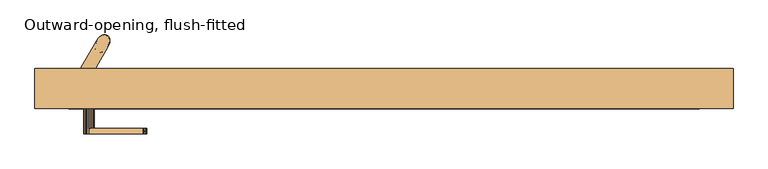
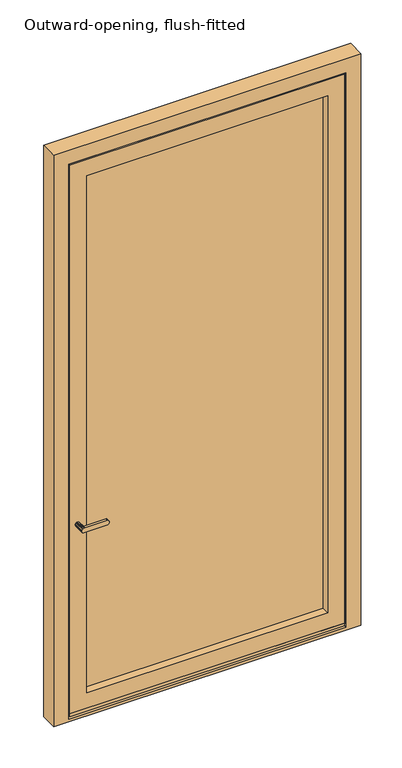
"""IFC4 building model written with IfcOpenShell, lengths in millimetres: door geometry, Outward-opening, flush-fitted."""

import ifcopenshell
import ifcopenshell.guid

model = None  # the IFC model being written
_history = None  # IfcOwnerHistory: only IFC2X3 demands one
_inside = {}  # id of a spatial element -> (the spatial element, [elements in it])
_under = {}  # id of a project, library or spatial element -> (it, [spatial elements below it])
_declared = {}  # id of a project -> (the project, [libraries it declares])
_typed = {}  # id of a type object -> (the type object, [elements of that type])
_made_of = {}  # id of a material, layer set ... -> (it, [elements and type objects made of it])


def new_model(schema):
    """Start an empty IFC model of exactly this schema.

    Asked for "IFC4X3", IfcOpenShell would pick the latest addendum, in which some entities
    have other attributes; the version numbers below select the first issue.
    IFC2X3 requires an IfcOwnerHistory on every rooted entity: one is made here for all.
    """
    global model, _history
    if schema == "IFC4X3":
        model = ifcopenshell.file(schema_version=(4, 3, 0, 0))
    else:
        model = ifcopenshell.file(schema=schema)
    _inside.clear()
    _under.clear()
    _declared.clear()
    _typed.clear()
    _made_of.clear()
    _history = None
    if model.schema == "IFC2X3":
        org = make("IfcOrganization", Name="unknown")
        user = make(
            "IfcPersonAndOrganization",
            ThePerson=make("IfcPerson", FamilyName="unknown"),
            TheOrganization=org,
        )
        app = make(
            "IfcApplication",
            ApplicationDeveloper=org,
            Version="unknown",
            ApplicationFullName="unknown",
            ApplicationIdentifier="unknown",
        )
        _history = make(
            "IfcOwnerHistory",
            OwningUser=user,
            OwningApplication=app,
            ChangeAction="ADDED",
            CreationDate=0,
        )
    return model


def make(cls, **values):
    """One entity of the class cls with the attributes given. An attribute that is None is left unset."""
    return model.create_entity(
        cls, **{name: value for name, value in values.items() if value is not None}
    )


def rooted(cls, **values):
    """An entity with a GlobalId (a new one), such as an element, a storey or a relation."""
    return make(cls, GlobalId=ifcopenshell.guid.new(), OwnerHistory=_history, **values)


def si_unit(unit_type, name, prefix=None):
    """IfcSIUnit, for example si_unit("LENGTHUNIT", "METRE", prefix="MILLI")."""
    return make("IfcSIUnit", UnitType=unit_type, Prefix=prefix, Name=name)


def assignment(units):
    """IfcUnitAssignment: the units of a project."""
    return None if units is None else make("IfcUnitAssignment", Units=units)


def point(xyz):
    """IfcCartesianPoint."""
    return None if xyz is None else make("IfcCartesianPoint", Coordinates=xyz)


def direction(xyz):
    """IfcDirection."""
    return None if xyz is None else make("IfcDirection", DirectionRatios=xyz)


def frame(location, z_axis=None, x_axis=None):
    """IfcAxis2Placement3D, a coordinate frame: its origin and axes. An axis left out is left unset."""
    return make(
        "IfcAxis2Placement3D",
        Location=point(location),
        Axis=direction(z_axis),
        RefDirection=direction(x_axis),
    )


def origin():
    """The frame at (0, 0, 0) with its axes left unset."""
    return frame((0.0, 0.0, 0.0))


def place(relative_to, where):
    """IfcLocalPlacement: puts the frame where relative to a parent placement (None: the world)."""
    return make(
        "IfcLocalPlacement", PlacementRelTo=relative_to, RelativePlacement=where
    )


def context(
    kind, dimensions, precision=None, world=None, true_north=None, identifier=None
):
    """IfcGeometricRepresentationContext, for example the 3D "Model" context."""
    return make(
        "IfcGeometricRepresentationContext",
        ContextIdentifier=identifier,
        ContextType=kind,
        CoordinateSpaceDimension=dimensions,
        Precision=precision,
        WorldCoordinateSystem=world,
        TrueNorth=true_north,
    )


def project(units=None, contexts=None):
    """IfcProject with its units and contexts."""
    return rooted(
        "IfcProject",
        Name="project",
        RepresentationContexts=contexts,
        UnitsInContext=assignment(units),
    )


def spatial(cls, under=None, at=None, **own):
    """A site, building, storey or space (cls), placed at a placement, below another one or the project."""
    s = rooted(cls, ObjectPlacement=at, **own)
    if under is not None:
        _under.setdefault(under.id(), (under, []))[1].append(s)
    return s


def polyline(points):
    """IfcPolyline through the points."""
    return make("IfcPolyline", Points=[point(p) for p in points])


def outline(outer, holes=None, kind="AREA"):
    """IfcArbitraryClosedProfileDef: a profile drawn as a closed curve; with holes, ...WithVoids."""
    if holes is None:
        return make("IfcArbitraryClosedProfileDef", ProfileType=kind, OuterCurve=outer)
    return make(
        "IfcArbitraryProfileDefWithVoids",
        ProfileType=kind,
        OuterCurve=outer,
        InnerCurves=holes,
    )


def extrude(swept, where, along, depth):
    """IfcExtrudedAreaSolid: the profile swept, set in the frame where, extruded along a direction by depth."""
    return make(
        "IfcExtrudedAreaSolid",
        SweptArea=swept,
        Position=where,
        ExtrudedDirection=direction(along),
        Depth=depth,
    )


def faces_of(points, faces, orient=None, outer=None):
    """IfcFace entities. A face is a list of loops; a loop is a list of indices into points, from 0.

    orient and outer hold one flag for each loop. By default every Orientation is true, the
    first loop of a face is its IfcFaceOuterBound and the others are IfcFaceBound.
    """
    made = []
    for i, loops in enumerate(faces):
        bounds = []
        for j, loop in enumerate(loops):
            is_outer = j == 0 if outer is None else outer[i][j]
            bounds.append(
                make(
                    "IfcFaceOuterBound" if is_outer else "IfcFaceBound",
                    Bound=make("IfcPolyLoop", Polygon=[points[k] for k in loop]),
                    Orientation=True if orient is None else orient[i][j],
                )
            )
        made.append(make("IfcFace", Bounds=bounds))
    return made


def faceted_brep(points, faces, orient=None, outer=None, voids=None):
    """IfcFacetedBrep: a solid bounded by flat faces; with voids (closed shells), ...WithVoids."""
    shared = [point(p) for p in points]
    hull = make("IfcClosedShell", CfsFaces=faces_of(shared, faces, orient, outer))
    if voids is None:
        return make("IfcFacetedBrep", Outer=hull)
    return make(
        "IfcFacetedBrepWithVoids",
        Outer=hull,
        Voids=[
            make(cls, CfsFaces=faces_of(shared, fs, o, b)) for cls, fs, o, b in voids
        ],
    )


def shape(context_of_items, identifier, shape_type, items):
    """IfcShapeRepresentation: the items that make up one representation, for example the "Body"."""
    return make(
        "IfcShapeRepresentation",
        ContextOfItems=context_of_items,
        RepresentationIdentifier=identifier,
        RepresentationType=shape_type,
        Items=items,
    )


def source(mapping_origin, context_of_items, identifier, shape_type, items):
    """IfcRepresentationMap: a shape defined once, which mapped items show again and again."""
    return make(
        "IfcRepresentationMap",
        MappingOrigin=mapping_origin,
        MappedRepresentation=shape(context_of_items, identifier, shape_type, items),
    )


def transform(
    local_origin,
    x_axis=None,
    y_axis=None,
    z_axis=None,
    scale=None,
    scale2=None,
    scale3=None,
    uniform=True,
):
    """IfcCartesianTransformationOperator3D, or its non-uniform kind. x_axis, y_axis, z_axis: its Axis1, 2, 3."""
    if uniform:
        return make(
            "IfcCartesianTransformationOperator3D",
            Axis1=direction(x_axis),
            Axis2=direction(y_axis),
            LocalOrigin=point(local_origin),
            Scale=scale,
            Axis3=direction(z_axis),
        )
    return make(
        "IfcCartesianTransformationOperator3DnonUniform",
        Axis1=direction(x_axis),
        Axis2=direction(y_axis),
        LocalOrigin=point(local_origin),
        Scale=scale,
        Axis3=direction(z_axis),
        Scale2=scale2,
        Scale3=scale3,
    )


def mapped(mapping_source, mapping_target):
    """IfcMappedItem: shows the shape of a source again, moved by a transform."""
    return make(
        "IfcMappedItem", MappingSource=mapping_source, MappingTarget=mapping_target
    )


def made_of(thing, what):
    """Note that an element or type object is made of a material, layer set ...; save() writes the relation."""
    if what is not None:
        _made_of.setdefault(what.id(), (what, []))[1].append(thing)
    return thing


def element(
    cls,
    number,
    at=None,
    inside=None,
    cuts=None,
    type_object=None,
    material=None,
    context=None,
    identifier="Body",
    shape_type=None,
    held_by="IfcProductDefinitionShape",
    body=None,
    shapes=None,
    **own,
):
    """One element of the class cls, such as IfcWall. Its Tag is "e" and its number.

    at: its placement. inside: the storey or other place that contains it. cuts: it is an
    opening in that element (IfcRelVoidsElement). A single representation is given by context,
    identifier, shape_type and body (its items); several are given by shapes. held_by: the class
    of the entity that holds the representations. save() writes the other relations.
    """
    e = rooted(cls, Tag="e%d" % number, ObjectPlacement=at, **own)
    if body is not None:
        shapes = [shape(context, identifier, shape_type, body)]
    if shapes is not None:
        e.Representation = make(held_by, Representations=shapes)
    if inside is not None:
        _inside.setdefault(inside.id(), (inside, []))[1].append(e)
    if cuts is not None:
        rooted(
            "IfcRelVoidsElement", RelatingBuildingElement=cuts, RelatedOpeningElement=e
        )
    if type_object is not None:
        _typed.setdefault(type_object.id(), (type_object, []))[1].append(e)
    return made_of(e, material)


def aggregate(whole, parts):
    """IfcRelAggregates: a whole, such as a stair, and the parts it consists of."""
    return rooted("IfcRelAggregates", RelatingObject=whole, RelatedObjects=parts)


def save(model, path):
    """Write the relations noted so far, then the file.

    IfcRelAggregates (storeys below a building ...), IfcRelContainedInSpatialStructure (elements
    in a storey), IfcRelDefinesByType, IfcRelAssociatesMaterial and IfcRelDeclares: one each for
    every whole, place, type object, material and project.
    """
    for whole, parts in _under.values():
        aggregate(whole, parts)
    for where, things in _inside.values():
        rooted(
            "IfcRelContainedInSpatialStructure",
            RelatedElements=things,
            RelatingStructure=where,
        )
    for kind, things in _typed.values():
        rooted("IfcRelDefinesByType", RelatedObjects=things, RelatingType=kind)
    for what, things in _made_of.values():
        rooted("IfcRelAssociatesMaterial", RelatedObjects=things, RelatingMaterial=what)
    for by, libraries in _declared.values():
        rooted("IfcRelDeclares", RelatingContext=by, RelatedDefinitions=libraries)
    model.write(path)


def outward_opening_flush_fitted_6024bf3f(model_context):
    return source(origin(), model_context, "Body", "SolidModel", [
        faceted_brep([(1489.5088425, -103.0, 3005.2684031), (1489.5088425, -94.7, 3005.2684031), (1489.5088425, -94.7, 17.8651688), (1489.5088425, -103.0, 15.0072496), (76.0, -94.7, 3005.2684031), (76.0, -94.7, 17.8651688), (55.5, -94.7, 17.8651688), (55.5, -94.7, 3025.7684031), (1510.0088425, -94.7, 3025.7684031), (1510.0088425, -94.7, 17.8651688), (1510.0088425, -21.3, 3025.7684031), (1510.0088425, -21.3, 14.3), (1510.0088425, -81.0, 14.3), (1510.0088425, -81.0, 20.0), (1510.0088425, -88.5, 20.0), (1521.5088425, -13.0006635, 0.0), (1521.5088425, -21.3, 0.0), (1521.5088425, -21.3, 3037.2684031), (1521.5088425, -13.0006635, 3037.2684031), (1565.5088425, -13.0006635, 0.0), (44.0, -13.0006635, 3037.2684031), (44.0, -13.0006635, 0.0), (0.0, -13.0006635, 0.0), (0.0, -13.0006635, 3081.2684031), (1565.5088425, -13.0006635, 3081.2684031), (76.0, -103.0, 3005.2684031), (76.0, -103.0, 15.0072496), (44.0, -21.3, 3037.2684031), (44.0, -21.3, 0.0), (55.5, -21.3, 3025.7684031), (55.5, -88.5, 20.0), (55.5, -81.0, 20.0), (55.5, -81.0, 14.3), (55.5, -21.3, 14.3), (0.0, -103.0, 3081.2684031), (1565.5088425, -103.0, 3081.2684031), (1565.5088425, -103.0, 0.0), (0.0, -103.0, 0.0)], [[[0, 1, 2, 3]], [[1, 4, 5, 6, 7, 8, 9, 2]], [[8, 10, 11, 12, 13, 14, 9]], [[15, 16, 17, 18]], [[19, 15, 18, 20, 21, 22, 23, 24]], [[4, 25, 26, 5]], [[20, 27, 28, 21]], [[29, 7, 6, 30, 31, 32, 33]], [[25, 4, 1, 0]], [[27, 20, 18, 17]], [[23, 34, 35, 24]], [[29, 10, 8, 7]], [[19, 24, 35, 36]], [[34, 23, 22, 37]], [[37, 36, 35, 34], [3, 26, 25, 0]], [[19, 36, 37, 22, 21, 28, 16, 15]], [[14, 30, 6, 5, 26, 3, 2, 9]], [[16, 28, 27, 17], [33, 11, 10, 29]], [[11, 33, 32, 12]], [[12, 32, 31, 13]], [[13, 31, 30, 14]]]),
        faceted_brep([(112.5227579, -103.0, 1058.4772421), (115.0056846, -103.0, 1060.3824588), (117.897114, -103.0, 1061.5801281), (121.0, -103.0, 1061.9886308), (124.102886, -103.0, 1061.5801281), (126.9943154, -103.0, 1060.3824588), (129.4772421, -103.0, 1058.4772421), (131.3824588, -103.0, 1055.9943154), (132.5801281, -103.0, 1053.102886), (132.9886308, -103.0, 1050.0), (132.5801281, -103.0, 1046.897114), (131.3824588, -103.0, 1044.0056846), (129.4772421, -103.0, 1041.5227579), (126.9943154, -103.0, 1039.6175412), (124.102886, -103.0, 1038.4198719), (121.0, -103.0, 1038.0113692), (117.897114, -103.0, 1038.4198719), (115.0056846, -103.0, 1039.6175412), (112.5227579, -103.0, 1041.5227579), (110.6175412, -103.0, 1044.0056846), (109.4198719, -103.0, 1046.897114), (109.0113692, -103.0, 1050.0), (109.4198719, -103.0, 1053.102886), (110.6175412, -103.0, 1055.9943154), (124.102886, -146.4998825, 1038.4198719), (121.0, -146.4998825, 1038.0113692), (126.9943154, -146.4998825, 1039.6175412), (131.3824588, -146.4998825, 1044.0056846), (129.4772421, -146.4998825, 1041.5227579), (132.5801281, -146.4998825, 1046.897114), (132.9886308, -146.4998825, 1050.0), (132.5801281, -146.4998825, 1053.102886), (131.3824588, -146.4998825, 1055.9943154), (126.9943154, -146.4998825, 1060.3824588), (129.4772421, -146.4998825, 1058.4772421), (124.102886, -146.4998825, 1061.5801281), (121.0, -146.4998825, 1061.9886308), (117.897114, -158.9999695, 1061.5801281), (121.0, -158.9999695, 1061.9886308), (115.0056846, -158.9999695, 1060.3824588), (110.6175412, -158.9999695, 1055.9943154), (112.5227579, -158.9999695, 1058.4772421), (109.4198719, -158.9999695, 1053.102886), (109.0113692, -158.9999695, 1050.0), (109.4198719, -158.9999695, 1046.897114), (110.6175412, -158.9999695, 1044.0056846), (115.0056846, -158.9999695, 1039.6175412), (112.5227579, -158.9999695, 1041.5227579), (117.897114, -158.9999695, 1038.4198719), (121.0, -158.9999695, 1038.0113692), (242.6617926, -158.9999695, 1038.0113692), (244.2039971, -158.9999695, 1038.2417274), (245.6869356, -158.9999695, 1038.9239494), (247.0536195, -158.9999695, 1040.0318178), (248.2515279, -158.9999695, 1041.5227579), (249.234626, -158.9999695, 1043.3394736), (249.9651338, -158.9999695, 1045.4121496), (250.4149782, -158.9999695, 1047.6611342), (250.5668721, -158.9999695, 1050.0), (250.4149782, -158.9999695, 1052.3388658), (249.9651338, -158.9999695, 1054.5878504), (249.234626, -158.9999695, 1056.6605264), (248.2515279, -158.9999695, 1058.4772421), (247.0536195, -158.9999695, 1059.9681822), (245.6869356, -158.9999695, 1061.0760506), (244.2039971, -158.9999695, 1061.7582726), (242.6617926, -158.9999695, 1061.9886308), (249.9651338, -146.4998825, 1045.4121496), (249.234626, -146.4998825, 1043.3394736), (248.2515279, -146.4998825, 1041.5227579), (247.0536195, -146.4998825, 1040.0318178), (245.6869356, -146.4998825, 1038.9239494), (244.2039971, -146.4998825, 1038.2417274), (242.6617926, -146.4998825, 1038.0113692), (242.6617926, -146.4998825, 1061.9886308), (244.2039971, -146.4998825, 1061.7582726), (245.6869356, -146.4998825, 1061.0760506), (247.0536195, -146.4998825, 1059.9681822), (248.2515279, -146.4998825, 1058.4772421), (249.234626, -146.4998825, 1056.6605264), (249.9651338, -146.4998825, 1054.5878504), (250.4149782, -146.4998825, 1052.3388658), (250.5668721, -146.4998825, 1050.0), (250.4149782, -146.4998825, 1047.6611342), (242.6617926, -151.9243401, 1038.0113692), (246.3882212, -152.7499239, 1039.4269715), (248.7725017, -152.7499257, 1042.3944932), (250.226482, -152.749926, 1046.5198842), (249.6334503, -152.749926, 1055.6514014), (250.528807, -152.7499259, 1051.1750915), (244.9565161, -152.749926, 1061.4724044), (247.676722, -152.749926, 1059.2673369), (242.6617926, -152.749926, 1061.9886308)], [[[0, 1, 2, 3, 4, 5, 6, 7, 8, 9, 10, 11, 12, 13, 14, 15, 16, 17, 18, 19, 20, 21, 22, 23]], [[14, 24, 25, 15]], [[13, 26, 24, 14]], [[27, 28, 12, 11]], [[13, 12, 28, 26]], [[29, 27, 11, 10]], [[30, 29, 10, 9]], [[8, 31, 30, 9]], [[7, 32, 31, 8]], [[33, 34, 6, 5]], [[7, 6, 34, 32]], [[35, 33, 5, 4]], [[36, 35, 4, 3]], [[2, 37, 38, 36, 3]], [[1, 39, 37, 2]], [[23, 40, 41, 0]], [[1, 0, 41, 39]], [[22, 42, 40, 23]], [[21, 43, 42, 22]], [[20, 44, 43, 21]], [[19, 45, 44, 20]], [[17, 46, 47, 18]], [[19, 18, 47, 45]], [[16, 48, 46, 17]], [[25, 49, 48, 16, 15]], [[45, 47, 46, 48, 49, 50, 51, 52, 53, 54, 55, 56, 57, 58, 59, 60, 61, 62, 63, 64, 65, 66, 38, 37, 39, 41, 40, 42, 43, 44]], [[67, 68, 69, 70, 71, 72, 73, 25, 24, 26, 28, 27, 29, 30, 31, 32, 34, 33, 35, 36, 74, 75, 76, 77, 78, 79, 80, 81, 82, 83]], [[49, 25, 73, 84, 50]], [[85, 52, 51]], [[53, 85, 86]], [[67, 87, 68]], [[69, 86, 70]], [[80, 88, 81]], [[72, 85, 84]], [[57, 56, 87]], [[60, 59, 89]], [[86, 87, 56]], [[76, 90, 91, 77]], [[86, 55, 54]], [[79, 78, 91, 88]], [[58, 87, 89]], [[70, 85, 71]], [[84, 73, 72]], [[50, 84, 51]], [[85, 72, 71]], [[58, 57, 87]], [[52, 85, 53]], [[86, 56, 55]], [[86, 54, 53]], [[68, 86, 69]], [[86, 85, 70]], [[74, 92, 75]], [[92, 66, 65]], [[62, 61, 88, 91]], [[87, 86, 68]], [[85, 51, 84]], [[87, 67, 83]], [[91, 90, 64, 63]], [[89, 87, 83]], [[61, 60, 88]], [[89, 88, 60]], [[90, 65, 64]], [[63, 62, 91]], [[89, 83, 82]], [[81, 89, 82]], [[88, 89, 81]], [[79, 88, 80]], [[90, 92, 65]], [[78, 77, 91]], [[75, 90, 76]], [[75, 92, 90]], [[59, 58, 89]], [[38, 66, 92, 74, 36]]]),
        faceted_brep([(104.0438995, -13.0, 2944.7684031), (104.0438995, -9.0, 2944.7684031), (137.9561005, -9.0, 2944.7684031), (137.9561005, -13.0, 2944.7684031), (104.0438995, -9.0, 2974.7684031), (137.9561005, -9.0, 2974.7684031), (137.9561005, -9.0, 2978.7684031), (137.9561005, -13.0, 2978.7684031), (104.0438995, -13.0, 2978.7684031), (104.0438995, -9.0, 2978.7684031), (138.2706335, 50.2824248, 2974.7684031), (140.9909342, 54.257783, 2974.7684031), (144.212515, 57.6656309, 2974.7684031), (147.7738322, 60.3350848, 2974.7684031), (151.4963068, 62.1322872, 2974.7684031), (155.1932781, 62.9671188, 2974.7684031), (158.6793647, 62.7977178, 2974.7684031), (161.7797595, 61.6325784, 2974.7684031), (164.3389959, 59.5301259, 2974.7684031), (166.2287431, 56.5957857, 2974.7684031), (167.3542412, 52.9766982, 2974.7684031), (167.6590531, 48.8543393, 2974.7684031), (167.1278941, 44.4354214, 2974.7684031), (165.787399, 39.9415275, 2974.7684031), (163.7047856, 35.5980002, 2974.7684031), (164.3389959, 59.5301259, 2978.7684031), (161.7797595, 61.6325784, 2978.7684031), (158.6793647, 62.7977178, 2978.7684031), (155.1932781, 62.9671188, 2978.7684031), (151.4963068, 62.1322872, 2978.7684031), (147.7738322, 60.3350848, 2978.7684031), (144.212515, 57.6656309, 2978.7684031), (140.9909342, 54.257783, 2978.7684031), (138.2706335, 50.2824248, 2978.7684031), (163.7047856, 35.5980002, 2978.7684031), (165.787399, 39.9415275, 2978.7684031), (167.1278941, 44.4354214, 2978.7684031), (167.6590531, 48.8543393, 2978.7684031), (167.3542412, 52.9766982, 2978.7684031), (166.2287431, 56.5957857, 2978.7684031), (138.2706335, 50.2824248, 2977.1783175), (163.7047856, 35.5980002, 2976.3584882), (165.3743297, 58.1586458, 2976.7684031), (153.3597081, 62.6737838, 2976.7684031), (167.6445577, 48.4468931, 2976.7684031)], [[[0, 1, 2, 3]], [[2, 1, 4, 5]], [[3, 2, 5, 6, 7]], [[0, 3, 7, 8]], [[1, 0, 8, 9, 4]], [[5, 4, 10, 11, 12, 13, 14, 15, 16, 17, 18, 19, 20, 21, 22, 23, 24]], [[25, 26, 27, 28, 29, 30, 31, 32, 33, 9, 8, 7, 6, 34, 35, 36, 37, 38, 39]], [[4, 9, 33, 40, 10]], [[5, 24, 41, 34, 6]], [[40, 33, 32]], [[11, 10, 40]], [[39, 42, 25]], [[43, 12, 40]], [[40, 12, 11]], [[43, 15, 14]], [[30, 43, 31]], [[28, 43, 29]], [[17, 16, 43]], [[41, 24, 23]], [[35, 34, 41]], [[13, 43, 14]], [[32, 31, 40]], [[16, 15, 43]], [[20, 19, 42]], [[13, 12, 43]], [[35, 41, 44]], [[30, 29, 43]], [[28, 27, 43]], [[40, 31, 43]], [[26, 43, 27]], [[17, 43, 42]], [[19, 18, 42]], [[20, 44, 21]], [[23, 22, 41]], [[22, 44, 41]], [[21, 44, 22]], [[44, 36, 35]], [[42, 43, 26]], [[17, 42, 18]], [[42, 26, 25]], [[38, 42, 39]], [[44, 42, 38]], [[20, 42, 44]], [[38, 37, 44]], [[37, 36, 44]]]),
        extrude(outline(polyline([(83.0, -103.0), (83.0, -94.7), (1482.5088425, -94.7), (1482.5088425, -103.0), (83.0, -103.0)])), frame((0.0, 0.0, 26.0), z_axis=(0.0, 0.0, 1.0), x_axis=(1.0, 0.0, 0.0)), (0.0, 0.0, 1.0), 14.0),
        faceted_brep([(166.2287431, 56.5957857, 2974.7684031), (164.3389959, 59.5301259, 2974.7684031), (161.7797595, 61.6325784, 2974.7684031), (158.6793647, 62.7977178, 2974.7684031), (155.1932781, 62.9671188, 2974.7684031), (151.4963068, 62.1322872, 2974.7684031), (147.7738322, 60.3350848, 2974.7684031), (144.212515, 57.6656309, 2974.7684031), (140.9909342, 54.257783, 2974.7684031), (138.2706335, 50.2824248, 2974.7684031), (136.1880202, 45.9388975, 2974.7684031), (134.847525, 41.4450036, 2974.7684031), (134.3163661, 37.0260857, 2974.7684031), (134.6211779, 32.9037268, 2974.7684031), (135.7466761, 29.2846393, 2974.7684031), (137.6364232, 26.3502991, 2974.7684031), (140.1956596, 24.2478466, 2974.7684031), (143.2960545, 23.0827073, 2974.7684031), (146.7821411, 22.9133062, 2974.7684031), (150.4791124, 23.7481378, 2974.7684031), (154.2015869, 25.5453402, 2974.7684031), (157.7629042, 28.2147941, 2974.7684031), (160.9844849, 31.622642, 2974.7684031), (163.7047856, 35.5980002, 2974.7684031), (165.787399, 39.9415275, 2974.7684031), (167.1278941, 44.4354214, 2974.7684031), (167.6590531, 48.8543393, 2974.7684031), (167.3542412, 52.9766982, 2974.7684031), (143.2960545, 23.0827073, 63.5), (140.1956596, 24.2478466, 63.5), (137.6364232, 26.3502991, 63.5), (135.7466761, 29.2846393, 63.5), (134.6211779, 32.9037268, 63.5), (134.3163661, 37.0260857, 63.5), (134.847525, 41.4450036, 63.5), (136.1880202, 45.9388975, 63.5), (138.2706335, 50.2824248, 63.5), (140.9909342, 54.257783, 63.5), (144.212515, 57.6656309, 63.5), (147.7738322, 60.3350848, 63.5), (151.4963068, 62.1322872, 63.5), (155.1932781, 62.9671188, 63.5), (158.6793647, 62.7977178, 63.5), (161.7797595, 61.6325784, 63.5), (164.3389959, 59.5301259, 63.5), (166.2287431, 56.5957857, 63.5), (167.3542412, 52.9766982, 63.5), (167.6590531, 48.8543393, 63.5), (167.1278941, 44.4354214, 63.5), (165.787399, 39.9415275, 63.5), (163.7047856, 35.5980002, 63.5), (160.9844849, 31.622642, 63.5), (157.7629042, 28.2147941, 63.5), (154.2015869, 25.5453402, 63.5), (150.4791124, 23.7481378, 63.5), (146.7821411, 22.9133062, 63.5), (161.5503861, 61.7610139, 2911.0173717), (166.8914925, 54.8611962, 156.3652499), (163.7047856, 35.5980002, 155.118765), (153.359707, 62.6737836, 2881.9031508), (153.3597056, 62.6737832, 147.4768544), (160.2880418, 62.3371113, 218.1211189), (148.3114578, 60.6543898, 219.4361607), (154.7525725, 62.9190223, 296.9667485), (163.1357621, 60.6929778, 2820.1472691), (167.6667669, 49.4795938, 2818.8322505), (166.4118151, 56.1796852, 2745.6030102), (163.070128, 60.7464427, 2254.2674737), (162.1053194, 61.4362655, 2333.4370633), (167.6273979, 50.727034, 2287.6276811), (163.7047856, 35.5980002, 2883.1496381), (138.2706335, 50.2824248, 2883.1496372), (138.2706335, 50.2824248, 155.1187659), (150.8872397, 61.9035441, 2793.2685922), (163.7047856, 35.5980002, 246.73753), (167.4606777, 52.3348547, 244.9998251), (162.005675, 61.4981525, 127.2510253), (149.1508278, 61.1119548, 1300.3533667), (138.2706335, 50.2824248, 1254.5439455), (138.2706335, 50.2824248, 1338.4631811), (138.2706335, 50.2824248, 1346.1627114), (159.9429171, 62.459814, 377.0064077), (164.8186043, 58.9480926, 310.1379243), (149.6950019, 61.382345, 2657.952498), (159.4761178, 62.6043217, 2600.9343142), (148.924774, 60.9935878, 2568.2586173), (166.8914918, 54.8611986, 2890.7915424), (138.2706335, 50.2824248, 796.4501216), (149.4218793, 61.2491977, 844.5648432), (150.0967486, 61.568857, 750.6407884), (138.2706335, 50.2824248, 2791.5308713), (138.2706335, 50.2824248, 2613.4263603), (138.2706335, 50.2824248, 2699.9121082), (138.2706335, 50.2824248, 2702.4786158), (165.3747551, 58.1579853, 605.9611497), (167.6379917, 50.5421634, 659.0220217), (167.6404644, 48.358918, 567.4032576), (163.7047856, 35.5980002, 2425.0558132), (163.7047856, 35.5980002, 2342.4198338), (163.7047856, 35.5980002, 2333.4370482), (167.606302, 51.0304176, 2382.2740576), (149.3041266, 61.1902016, 1393.1624959), (161.6117845, 61.7274087, 2523.0908639), (167.6104833, 50.9752672, 2475.1428654), (161.4248091, 61.8280228, 2429.9229393), (162.7835272, 60.9695848, 791.6614915), (161.7797596, 61.6325784, 888.0689337), (163.42191, 60.4489696, 1696.0929578), (149.211925, 61.1433357, 1755.2390445), (162.1005427, 61.4392692, 1790.140759), (138.2706335, 50.2824248, 1071.3064137), (148.9339122, 60.9984419, 1120.059405), (148.4305405, 60.7223254, 1025.4970775), (167.6348876, 50.5994973, 1205.4552354), (160.8835731, 62.0914866, 1159.8489901), (161.9458724, 61.5345229, 1248.1277094), (167.661815, 49.8998626, 1560.3363337), (167.6215515, 50.8181233, 1473.9664793), (161.2722605, 61.9063753, 1524.8951775), (167.5967989, 51.1488327, 1839.5488391), (167.6385699, 50.5311402, 1746.9807638), (167.5279141, 51.8299963, 2182.5066626), (149.62528, 61.3488452, 2380.8114814), (149.5173599, 61.2963304, 2477.9231092), (167.5776528, 51.3642802, 1298.6243515), (149.6275407, 61.3499366, 1485.9850853), (148.7299892, 60.8887293, 1574.5680283), (158.5173084, 62.8292766, 2737.1517617), (163.0725851, 60.7444575, 2671.3557941), (167.6665231, 49.3254074, 1383.6309709), (163.7047856, 35.5980002, 1428.7986914), (163.7047856, 35.5980002, 1346.1627112), (163.7047856, 35.5980002, 1338.4631811), (161.7797594, 61.6325785, 695.2540495), (149.472979, 61.2745008, 1208.7346037), (138.2706335, 50.2824248, 1800.4067782), (149.0197754, 61.0437668, 1845.5745526), (163.7047856, 35.5980002, 2252.084323), (163.7047856, 35.5980002, 2241.8182832), (138.2706335, 50.2824248, 1890.7422861), (149.2194447, 61.1471801, 1938.1067731), (161.263238, 61.9109065, 1342.8791928), (167.6667973, 49.459536, 1654.6374958), (163.7047856, 35.5980002, 1609.4697118), (167.6667164, 49.5001733, 1925.6440206), (163.7047856, 35.5980002, 1970.8117526), (163.7047856, 35.5980002, 1890.7422858), (163.7047856, 35.5980002, 1880.4762424), (151.4232706, 62.1061953, 1664.9035365), (163.678937, 60.2137193, 1609.4697423), (167.6178456, 50.8727479, 931.6208449), (167.6466071, 50.3639497, 1022.2889377), (163.7047856, 35.5980002, 977.1211403), (167.5229932, 51.8708695, 1112.6244462), (161.4439956, 61.817933, 1885.5331223), (164.1542953, 59.7339471, 534.8403951), (162.6209394, 61.089035, 455.1270631), (151.5488245, 62.1508234, 510.2370023), (152.0804495, 62.3278242, 433.3711074), (138.2706335, 50.2824248, 429.9750637), (162.1297745, 61.420828, 980.2939033), (160.2146589, 62.3643685, 1071.3064597), (167.6109871, 47.8616624, 310.9430062), (163.7047856, 35.5980002, 338.356295), (148.767306, 60.909024, 361.5338927), (144.9999488, 58.3439984, 303.949032), (163.7047856, 35.5980002, 429.97506), (167.5911919, 51.2148027, 384.1657268), (167.6512178, 50.2522037, 473.2283411), (167.6602808, 49.9658977, 750.6407851), (163.7047856, 35.5980002, 521.5938249), (146.3293213, 59.3723443, 659.0220247), (147.8589177, 60.3870005, 2726.4586517), (138.2706335, 50.2824248, 2523.0908525), (138.2706335, 50.2824248, 2608.2933432), (167.5821259, 51.3162951, 2568.2375303), (167.2985869, 45.3224687, 2736.8398295), (167.6650146, 49.7148716, 2677.9722309), (138.2706335, 50.2824248, 2432.7553446), (138.2706335, 50.2824248, 2516.6745782), (150.2175015, 61.6227504, 2287.9260426), (138.2706335, 50.2824248, 2252.0843232), (138.2706335, 50.2824248, 2333.4370482), (138.2706335, 50.2824248, 2342.4198368), (163.7047856, 35.5980002, 2608.2933432), (163.7047856, 35.5980002, 2523.0908495), (163.7047856, 35.5980002, 2516.6745782), (138.2706335, 50.2824248, 2071.4133018), (148.2998555, 60.647717, 2116.5810768), (149.8091974, 61.4364898, 2030.678384), (167.6249413, 50.7661022, 2015.9795289), (163.7047856, 35.5980002, 2151.482773), (167.6114004, 47.8675751, 2106.3150371), (158.0019894, 62.9130418, 2185.0268608), (164.2155907, 59.6674589, 2087.7536778), (138.2706335, 50.2824248, 2151.482773), (138.2706335, 50.2824248, 2161.7488097), (161.4519573, 61.8137305, 1981.0778153), (166.6689502, 55.5223467, 2625.5894689), (138.2706335, 50.2824248, 1619.7357511), (138.2706335, 50.2824248, 1699.805222), (138.2706335, 50.2824248, 1710.0712647), (163.7047856, 35.5980002, 1067.4566505), (163.7047856, 35.5980002, 979.6876533), (146.5151909, 59.5050092, 2206.9165848), (163.7047856, 35.5980002, 2432.7553388), (163.7047856, 35.5980002, 613.2125899), (138.2706335, 50.2824248, 246.7375318), (163.7047856, 35.5980002, 2699.9121082), (163.7047856, 35.5980002, 2791.5308731), (167.361778, 45.7003756, 2625.9156272), (138.2706335, 50.2824248, 2425.0558132), (145.6466545, 58.8619963, 570.3918383), (138.2706335, 50.2824248, 521.5938296), (155.1749088, 62.9654044, 607.288823), (138.2706335, 50.2824248, 704.8313614), (138.2706335, 50.2824248, 613.2125955), (163.7047856, 35.5980002, 704.8313549), (167.6461469, 50.374353, 841.1382431), (163.7047856, 35.5980002, 796.4501199), (150.0482119, 61.5469127, 938.6220733), (138.2706335, 50.2824248, 888.0688819), (163.7047856, 35.5980002, 1157.7921607), (163.7047856, 35.5980002, 1071.3064163), (163.7047856, 35.5980002, 886.7856301), (163.7047856, 35.5980002, 888.0688902), (138.2706335, 50.2824248, 977.1211403), (138.2706335, 50.2824248, 979.6876478), (138.2706335, 50.2824248, 886.7856301), (138.2706335, 50.2824248, 338.3562978), (163.7047856, 35.5980002, 1254.5439424), (163.7047856, 35.5980002, 1248.1276709), (163.7047856, 35.5980002, 1519.1342016), (163.7047856, 35.5980002, 1437.7814799), (161.4469675, 61.8163653, 1437.7815119), (138.2706335, 50.2824248, 1162.9251796), (138.2706335, 50.2824248, 1248.1276709), (138.2706335, 50.2824248, 1437.7814774), (138.2706335, 50.2824248, 1529.4002433), (138.2706335, 50.2824248, 1609.4697118), (138.2706335, 50.2824248, 1790.1407322), (138.2706335, 50.2824248, 1519.1342016), (138.2706335, 50.2824248, 1428.7986914), (163.7047856, 35.5980002, 1162.9251794), (138.2706335, 50.2824248, 1157.7921607), (138.2706335, 50.2824248, 1067.4566505), (163.7047856, 35.5980002, 1699.805222), (163.7047856, 35.5980002, 1619.7357537), (163.7047856, 35.5980002, 1529.400243), (163.7047856, 35.5980002, 1800.4067751), (163.7047856, 35.5980002, 1790.1407322), (163.7047856, 35.5980002, 2061.1472628), (163.7047856, 35.5980002, 1981.0777966), (138.2706335, 50.2824248, 1880.4762424), (138.2706335, 50.2824248, 1981.0777939), (156.2255425, 63.0218577, 2078.6766356), (138.2706335, 50.2824248, 2241.8182832), (163.7047856, 35.5980002, 1710.0712644), (138.2706335, 50.2824248, 2061.1472628), (138.2706335, 50.2824248, 1970.8117526), (163.7047856, 35.5980002, 2071.4133073), (163.7047856, 35.5980002, 2161.7488123), (163.7047856, 35.5980002, 2702.4786186), (163.7047856, 35.5980002, 2613.4263602), (140.4250331, 24.1194111, 2911.0173717), (135.0839266, 31.0192288, 156.3652499), (148.6157121, 23.2066414, 2881.9031508), (148.6157136, 23.2066418, 147.4768544), (141.6873773, 23.5433137, 218.1211189), (153.6639614, 25.2260352, 219.4361607), (147.2228467, 22.9614027, 296.9667485), (138.839657, 25.1874472, 2820.1472691), (134.3086522, 36.4008312, 2818.8322505), (135.5636041, 29.7007398, 2745.6030102), (138.9052912, 25.1339823, 2254.2674737), (139.8700998, 24.4441595, 2333.4370633), (134.3480212, 35.153391, 2287.6276811), (151.0881795, 23.9768809, 2793.2685922), (134.5147414, 33.5455703, 244.9998251), (139.9697441, 24.3822725, 127.2510253), (152.8245914, 24.7684702, 1300.3533667), (142.032502, 23.420611, 377.0064077), (137.1568148, 26.9323324, 310.1379243), (152.2804173, 24.49808, 2657.952498), (142.4993013, 23.2761033, 2600.9343142), (153.0506451, 24.8868372, 2568.2586173), (135.0839274, 31.0192264, 2890.7915424), (152.5535399, 24.6312273, 844.5648432), (151.8786705, 24.311568, 750.6407884), (136.6006641, 27.7224397, 605.9611497), (134.3374275, 35.3382616, 659.0220217), (134.3349548, 37.521507, 567.4032576), (134.3691172, 34.8500074, 2382.2740576), (152.6712926, 24.6902234, 1393.1624959), (140.3636346, 24.1530163, 2523.0908639), (134.3649358, 34.9051578, 2475.1428654), (140.5506101, 24.0524022, 2429.9229393), (139.1918919, 24.9108402, 791.6614915), (140.1956596, 24.2478466, 888.0689337), (138.5535091, 25.4314554, 1696.0929578), (152.7634942, 24.7370893, 1755.2390445), (139.8748764, 24.4411558, 1790.140759), (153.0415069, 24.8819831, 1120.059405), (153.5448786, 25.1580996, 1025.4970775), (134.3405315, 35.2809277, 1205.4552354), (141.0918461, 23.7889384, 1159.8489901), (140.0295468, 24.3459021, 1248.1277094), (134.3136041, 35.9805624, 1560.3363337), (134.3538677, 35.0623017, 1473.9664793), (140.7031586, 23.9740497, 1524.8951775), (134.3786203, 34.7315923, 1839.5488391), (134.3368493, 35.3492848, 1746.9807638), (134.4475051, 34.0504287, 2182.5066626), (152.3501391, 24.5315798, 2380.8114814), (152.4580592, 24.5840946, 2477.9231092), (134.3977663, 34.5161448, 1298.6243515), (152.3478785, 24.5304884, 1485.9850853), (153.24543, 24.9916957, 1574.5680283), (143.4581107, 23.0511484, 2737.1517617), (138.9028341, 25.1359675, 2671.3557941), (134.308896, 36.5550176, 1383.6309709), (140.1956597, 24.2478465, 695.2540495), (152.5024402, 24.6059242, 1208.7346037), (152.9556438, 24.8366582, 1845.5745526), (152.7559744, 24.7332449, 1938.1067731), (140.7121812, 23.9695185, 1342.8791928), (134.3086219, 36.420889, 1654.6374958), (134.3087027, 36.3802517, 1925.6440206), (150.5521486, 23.7742297, 1664.9035365), (138.2964821, 25.6667057, 1609.4697423), (134.3575736, 35.0076771, 931.6208449), (134.328812, 35.5164753, 1022.2889377), (134.4524259, 34.0095555, 1112.6244462), (140.5314235, 24.062492, 1885.5331223), (137.8211238, 26.1464779, 534.8403951), (139.3544797, 24.79139, 455.1270631), (150.4265947, 23.7296016, 510.2370023), (149.8949697, 23.5526008, 433.3711074), (139.8456446, 24.459597, 980.2939033), (141.7607603, 23.5160565, 1071.3064597), (134.364432, 38.0187626, 310.9430062), (153.2081131, 24.971401, 361.5338927), (156.9754703, 27.5364266, 303.949032), (134.3842272, 34.6656223, 384.1657268), (134.3242013, 35.6282213, 473.2283411), (134.3151383, 35.9145273, 750.6407851), (155.6460978, 26.5080807, 659.0220247), (154.1165014, 25.4934245, 2726.4586517), (134.3932933, 34.5641299, 2568.2375303), (134.6768322, 40.5579563, 2736.8398295), (134.3104046, 36.1655534, 2677.9722309), (151.7579177, 24.2576746, 2287.9260426), (153.6755637, 25.232708, 2116.5810768), (152.1662217, 24.4439352, 2030.678384), (134.3504778, 35.1143228, 2015.9795289), (134.3640187, 38.0128499, 2106.3150371), (143.9734297, 22.9673832, 2185.0268608), (137.7598285, 26.2129661, 2087.7536778), (140.5234619, 24.0666945, 1981.0778153), (135.306469, 30.3580783, 2625.5894689), (155.4602282, 26.3754158, 2206.9165848), (134.6136411, 40.1800494, 2625.9156272), (156.3287647, 27.0184287, 570.3918383), (146.8005104, 22.9150206, 607.288823), (134.3292722, 35.506072, 841.1382431), (151.9272072, 24.3335123, 938.6220733), (140.5284516, 24.0640597, 1437.7815119), (145.7498767, 22.8585673, 2078.6766356)], [[[0, 1, 2, 3, 4, 5, 6, 7, 8, 9, 10, 11, 12, 13, 14, 15, 16, 17, 18, 19, 20, 21, 22, 23, 24, 25, 26, 27]], [[28, 29, 30, 31, 32, 33, 34, 35, 36, 37, 38, 39, 40, 41, 42, 43, 44, 45, 46, 47, 48, 49, 50, 51, 52, 53, 54, 55]], [[2, 1, 56]], [[57, 58, 48]], [[7, 6, 59]], [[5, 4, 59]], [[38, 60, 39]], [[61, 62, 63]], [[4, 3, 56]], [[64, 65, 66]], [[40, 60, 41]], [[67, 68, 69]], [[24, 23, 70]], [[58, 50, 49]], [[71, 9, 8]], [[37, 36, 72]], [[73, 59, 64]], [[60, 40, 39]], [[74, 58, 75]], [[45, 76, 57]], [[77, 78, 79, 80]], [[71, 8, 7]], [[63, 81, 82]], [[83, 84, 85]], [[25, 86, 26]], [[24, 70, 25]], [[87, 88, 89]], [[75, 58, 57]], [[72, 62, 60]], [[5, 59, 6]], [[90, 71, 73]], [[70, 65, 86]], [[42, 41, 76]], [[46, 57, 47]], [[83, 91, 92, 93]], [[94, 95, 96]], [[43, 42, 76]], [[97, 98, 99, 100]], [[86, 27, 26]], [[80, 101, 77]], [[4, 56, 59]], [[64, 56, 86]], [[102, 103, 104]], [[46, 45, 57]], [[58, 49, 48]], [[76, 41, 60]], [[59, 71, 7]], [[45, 44, 76]], [[56, 1, 0]], [[75, 57, 61]], [[61, 76, 60]], [[27, 86, 0]], [[47, 57, 48]], [[37, 72, 38]], [[105, 88, 106]], [[0, 86, 56]], [[38, 72, 60]], [[73, 71, 59]], [[64, 86, 65]], [[61, 60, 62]], [[25, 70, 86]], [[107, 108, 109]], [[110, 111, 112]], [[113, 114, 115]], [[116, 117, 118]], [[119, 120, 109]], [[67, 69, 121]], [[104, 122, 123]], [[113, 115, 124]], [[118, 125, 126]], [[104, 123, 102]], [[127, 66, 128]], [[129, 130, 131, 132]], [[133, 89, 105]], [[134, 114, 111]], [[100, 68, 104]], [[135, 136, 108]], [[69, 99, 137, 138]], [[139, 140, 136]], [[115, 141, 124]], [[142, 143, 116]], [[144, 145, 146, 147]], [[148, 149, 126]], [[150, 151, 152]], [[113, 153, 114]], [[109, 154, 119]], [[68, 100, 69]], [[96, 155, 94]], [[156, 157, 155]], [[158, 159, 157]], [[160, 112, 161]], [[162, 163, 74]], [[164, 63, 165]], [[166, 163, 167]], [[168, 167, 156]], [[169, 95, 133]], [[167, 162, 82]], [[82, 81, 167]], [[168, 96, 170]], [[166, 167, 168]], [[133, 171, 89]], [[172, 93, 90]], [[158, 157, 156]], [[85, 173, 174, 91]], [[102, 175, 103]], [[66, 176, 177]], [[91, 83, 85]], [[172, 127, 83]], [[127, 128, 83]], [[122, 178, 123]], [[123, 178, 179, 173]], [[84, 175, 102]], [[180, 181, 182, 183]], [[122, 180, 183]], [[104, 68, 122]], [[97, 100, 103]], [[175, 184, 185, 186]], [[103, 175, 186]], [[85, 123, 173]], [[123, 85, 102]], [[103, 100, 104]], [[99, 69, 100]], [[187, 188, 189]], [[68, 180, 122]], [[69, 138, 121]], [[144, 190, 145]], [[191, 192, 121]], [[193, 121, 194]], [[194, 121, 192]], [[188, 187, 195, 196]], [[194, 190, 197]], [[73, 64, 127]], [[84, 198, 175]], [[142, 149, 107]], [[148, 199, 200, 201]], [[151, 202, 203, 152]], [[181, 180, 204]], [[193, 180, 67]], [[103, 186, 205, 97]], [[96, 206, 170]], [[155, 168, 156]], [[170, 166, 168]], [[164, 81, 63]], [[207, 62, 72]], [[75, 61, 82]], [[62, 165, 63]], [[164, 158, 81]], [[177, 176, 208]], [[209, 65, 70]], [[177, 210, 198]], [[65, 176, 66]], [[177, 128, 66]], [[128, 177, 198]], [[210, 177, 208]], [[122, 183, 211, 178]], [[212, 157, 213]], [[81, 156, 167]], [[157, 214, 155]], [[156, 81, 158]], [[213, 157, 159]], [[215, 171, 216]], [[214, 157, 212]], [[87, 89, 215]], [[212, 216, 171]], [[88, 105, 89]], [[217, 206, 95]], [[105, 218, 169]], [[169, 217, 95]], [[217, 169, 219]], [[94, 214, 133]], [[106, 88, 220]], [[88, 221, 220]], [[106, 220, 160]], [[161, 114, 153]], [[106, 160, 150]], [[160, 151, 150]], [[113, 222, 153]], [[153, 222, 223, 202]], [[160, 161, 151]], [[105, 106, 218]], [[150, 224, 218]], [[151, 153, 202]], [[161, 153, 151]], [[219, 169, 218]], [[133, 105, 169]], [[150, 152, 225, 224]], [[106, 150, 218]], [[224, 219, 218]], [[220, 221, 226, 227]], [[88, 87, 228, 221]], [[229, 159, 164]], [[158, 164, 159]], [[229, 164, 165]], [[124, 132, 230, 231]], [[113, 124, 231]], [[132, 124, 129]], [[124, 141, 129]], [[232, 117, 116]], [[117, 232, 233, 130]], [[129, 141, 234]], [[77, 101, 141]], [[134, 77, 115]], [[235, 134, 111]], [[134, 235, 236, 78]], [[141, 115, 77]], [[78, 77, 134]], [[234, 141, 101]], [[234, 101, 125]], [[101, 237, 125]], [[125, 118, 234]], [[126, 238, 239, 199]], [[120, 142, 107]], [[238, 126, 125]], [[108, 201, 240, 135]], [[125, 237, 241, 238]], [[101, 80, 242, 237]], [[126, 199, 148]], [[113, 231, 243, 222]], [[129, 117, 130]], [[234, 117, 129]], [[227, 112, 220]], [[161, 111, 114]], [[111, 110, 244, 235]], [[112, 227, 245, 110]], [[115, 114, 134]], [[220, 112, 160]], [[161, 112, 111]], [[234, 118, 117]], [[149, 118, 126]], [[142, 246, 247, 143]], [[149, 116, 118]], [[116, 143, 248, 232]], [[120, 246, 142]], [[149, 142, 116]], [[119, 147, 249, 250]], [[120, 119, 250]], [[120, 107, 109]], [[107, 149, 148]], [[190, 251, 252, 145]], [[119, 154, 144]], [[147, 119, 144]], [[136, 140, 154]], [[201, 108, 148]], [[192, 251, 190]], [[144, 154, 197]], [[136, 135, 253, 139]], [[148, 108, 107]], [[154, 109, 136]], [[108, 136, 109]], [[197, 154, 140]], [[197, 140, 189]], [[140, 254, 189]], [[197, 255, 194]], [[204, 196, 256, 181]], [[120, 250, 257, 246]], [[189, 254, 258, 187]], [[140, 139, 259, 254]], [[197, 190, 144]], [[188, 193, 255]], [[189, 188, 255]], [[193, 188, 204]], [[63, 82, 61]], [[162, 75, 82]], [[66, 127, 64]], [[172, 73, 127]], [[73, 172, 90]], [[172, 83, 93]], [[206, 96, 95]], [[155, 96, 168]], [[75, 162, 74]], [[163, 162, 167]], [[95, 94, 133]], [[94, 155, 214]], [[68, 67, 180]], [[193, 67, 121]], [[192, 191, 260, 251]], [[121, 138, 261, 191]], [[194, 192, 190]], [[196, 204, 188]], [[193, 204, 180]], [[214, 171, 133]], [[171, 215, 89]], [[165, 207, 229]], [[207, 165, 62]], [[176, 209, 262, 208]], [[209, 176, 65]], [[84, 128, 198]], [[184, 175, 210]], [[128, 84, 83]], [[85, 84, 102]], [[198, 210, 175]], [[210, 208, 263, 184]], [[43, 76, 44]], [[57, 76, 61]], [[2, 56, 3]], [[59, 56, 64]], [[214, 212, 171]], [[216, 212, 213]], [[189, 255, 197]], [[194, 255, 193]], [[16, 15, 264]], [[265, 72, 34]], [[21, 20, 266]], [[19, 18, 266]], [[52, 267, 53]], [[268, 269, 270]], [[18, 17, 264]], [[271, 272, 273]], [[54, 267, 55]], [[274, 275, 276]], [[10, 9, 71]], [[72, 36, 35]], [[70, 23, 22]], [[51, 50, 58]], [[277, 266, 271]], [[267, 54, 53]], [[207, 72, 278]], [[31, 279, 265]], [[280, 230, 132, 131]], [[70, 22, 21]], [[270, 281, 282]], [[283, 284, 285]], [[11, 286, 12]], [[10, 71, 11]], [[219, 287, 288]], [[278, 72, 265]], [[58, 269, 267]], [[19, 266, 20]], [[209, 70, 277]], [[71, 272, 286]], [[28, 55, 279]], [[32, 265, 33]], [[283, 263, 208, 262]], [[289, 290, 291]], [[29, 28, 279]], [[211, 183, 182, 292]], [[286, 13, 12]], [[131, 293, 280]], [[18, 264, 266]], [[271, 264, 286]], [[294, 295, 296]], [[32, 31, 265]], [[72, 35, 34]], [[279, 55, 267]], [[266, 70, 21]], [[31, 30, 279]], [[264, 15, 14]], [[278, 265, 268]], [[268, 279, 267]], [[13, 286, 14]], [[33, 265, 34]], [[51, 58, 52]], [[297, 287, 298]], [[14, 286, 264]], [[52, 58, 267]], [[277, 70, 266]], [[271, 286, 272]], [[268, 267, 269]], [[11, 71, 286]], [[299, 300, 301]], [[223, 302, 303]], [[304, 305, 306]], [[307, 308, 309]], [[310, 311, 301]], [[274, 276, 312]], [[296, 313, 314]], [[304, 306, 315]], [[309, 316, 317]], [[296, 314, 294]], [[318, 273, 319]], [[320, 242, 80, 79]], [[321, 288, 297]], [[322, 305, 302]], [[292, 275, 296]], [[249, 323, 300]], [[256, 312, 276]], [[146, 324, 323]], [[306, 325, 315]], [[326, 239, 307]], [[327, 259, 139, 253]], [[328, 329, 317]], [[330, 331, 226]], [[304, 332, 305]], [[301, 333, 310]], [[275, 292, 276]], [[291, 334, 289]], [[335, 336, 334]], [[337, 166, 336]], [[338, 303, 339]], [[340, 229, 207]], [[341, 270, 342]], [[159, 229, 343]], [[344, 343, 335]], [[345, 290, 321]], [[343, 340, 282]], [[282, 281, 343]], [[344, 291, 213]], [[159, 343, 344]], [[321, 346, 288]], [[347, 262, 209]], [[337, 336, 335]], [[285, 185, 184, 263]], [[294, 348, 295]], [[273, 349, 350]], [[263, 283, 285]], [[347, 318, 283]], [[318, 319, 283]], [[313, 205, 314]], [[314, 205, 186, 185]], [[284, 348, 294]], [[351, 137, 99, 98]], [[313, 351, 98]], [[296, 275, 313]], [[211, 292, 295]], [[348, 174, 173, 179]], [[295, 348, 179]], [[285, 314, 185]], [[314, 285, 294]], [[295, 292, 296]], [[276, 182, 181, 256]], [[260, 352, 353]], [[292, 182, 276]], [[313, 275, 351]], [[327, 354, 259]], [[195, 355, 312]], [[356, 312, 357]], [[357, 312, 355]], [[352, 260, 191, 261]], [[357, 354, 358]], [[277, 271, 318]], [[284, 359, 348]], [[326, 307, 329]], [[328, 247, 246, 257]], [[331, 245, 227, 226]], [[137, 351, 360]], [[356, 351, 274]], [[295, 179, 178, 211]], [[291, 216, 213]], [[334, 344, 335]], [[213, 159, 344]], [[341, 281, 270]], [[74, 269, 58]], [[278, 268, 282]], [[269, 342, 270]], [[341, 337, 281]], [[350, 349, 92]], [[90, 272, 71]], [[350, 361, 359]], [[272, 349, 273]], [[350, 319, 273]], [[319, 350, 359]], [[361, 350, 92]], [[313, 98, 97, 205]], [[362, 336, 170]], [[281, 335, 343]], [[336, 363, 334]], [[335, 281, 337]], [[170, 336, 166]], [[217, 346, 206]], [[363, 336, 362]], [[219, 288, 217]], [[362, 206, 346]], [[287, 297, 288]], [[215, 216, 290]], [[297, 364, 345]], [[345, 215, 290]], [[215, 345, 87]], [[289, 363, 321]], [[298, 287, 365]], [[287, 225, 365]], [[298, 365, 338]], [[339, 305, 332]], [[298, 338, 330]], [[338, 331, 330]], [[304, 244, 332]], [[332, 244, 110, 245]], [[338, 339, 331]], [[297, 298, 364]], [[330, 228, 364]], [[331, 332, 245]], [[339, 332, 331]], [[87, 345, 364]], [[321, 297, 345]], [[330, 226, 221, 228]], [[298, 330, 364]], [[228, 87, 364]], [[365, 225, 152, 203]], [[287, 219, 224, 225]], [[163, 166, 341]], [[337, 341, 166]], [[163, 341, 342]], [[315, 79, 78, 236]], [[304, 315, 236]], [[79, 315, 320]], [[315, 325, 320]], [[241, 308, 307]], [[308, 241, 237, 242]], [[320, 325, 366]], [[280, 293, 325]], [[322, 280, 306]], [[243, 322, 302]], [[322, 243, 231, 230]], [[325, 306, 280]], [[230, 280, 322]], [[366, 325, 293]], [[366, 293, 316]], [[293, 233, 316]], [[316, 309, 366]], [[317, 248, 143, 247]], [[311, 326, 299]], [[248, 317, 316]], [[300, 257, 250, 249]], [[316, 233, 232, 248]], [[293, 131, 130, 233]], [[317, 247, 328]], [[304, 236, 235, 244]], [[320, 308, 242]], [[366, 308, 320]], [[203, 303, 365]], [[339, 302, 305]], [[302, 223, 222, 243]], [[303, 203, 202, 223]], [[306, 305, 322]], [[365, 303, 338]], [[339, 303, 302]], [[366, 309, 308]], [[329, 309, 317]], [[326, 200, 199, 239]], [[329, 307, 309]], [[307, 239, 238, 241]], [[200, 326, 311]], [[326, 329, 299]], [[310, 253, 135, 240]], [[311, 310, 240]], [[311, 299, 301]], [[299, 329, 328]], [[354, 258, 254, 259]], [[310, 333, 327]], [[253, 310, 327]], [[323, 324, 333]], [[257, 300, 328]], [[355, 258, 354]], [[327, 333, 358]], [[323, 249, 147, 146]], [[328, 300, 299]], [[333, 301, 323]], [[300, 323, 301]], [[358, 333, 324]], [[358, 324, 353]], [[324, 252, 353]], [[358, 367, 357]], [[360, 261, 138, 137]], [[311, 240, 201, 200]], [[353, 252, 251, 260]], [[324, 146, 145, 252]], [[358, 354, 327]], [[352, 356, 367]], [[353, 352, 367]], [[356, 352, 360]], [[270, 282, 268]], [[340, 278, 282]], [[273, 318, 271]], [[347, 277, 318]], [[277, 347, 209]], [[347, 283, 262]], [[216, 291, 290]], [[334, 291, 344]], [[278, 340, 207]], [[229, 340, 343]], [[290, 289, 321]], [[289, 334, 363]], [[275, 274, 351]], [[356, 274, 312]], [[355, 195, 187, 258]], [[312, 256, 196, 195]], [[357, 355, 354]], [[261, 360, 352]], [[356, 360, 351]], [[363, 346, 321]], [[346, 217, 288]], [[342, 74, 163]], [[74, 342, 269]], [[349, 90, 93, 92]], [[90, 349, 272]], [[284, 319, 359]], [[174, 348, 361]], [[319, 284, 283]], [[285, 284, 294]], [[359, 361, 348]], [[361, 92, 91, 174]], [[29, 279, 30]], [[265, 279, 268]], [[16, 264, 17]], [[266, 264, 271]], [[363, 362, 346]], [[206, 362, 170]], [[353, 367, 358]], [[357, 367, 356]]]),
        extrude(outline(polyline([(153.0, -24.0), (1412.5088425, -24.0), (1412.5088425, -62.0), (153.0, -62.0), (153.0, -24.0)])), frame((0.0, 0.0, 110.0), z_axis=(0.0, 0.0, 1.0), x_axis=(1.0, 0.0, 0.0)), (0.0, 0.0, 1.0), 2818.2684031),
        faceted_brep([(71.5, -94.7, 3009.7684031), (71.5, -21.3, 3009.7684031), (71.5, -21.3, 28.5), (71.5, -94.7, 28.5), (51.0, -21.3, 3030.2684031), (51.0, -21.3, 8.0), (1514.5088425, -21.3, 8.0), (1514.5088425, -21.3, 3030.2684031), (1494.0088425, -21.3, 3009.7684031), (1494.0088425, -21.3, 28.5), (1494.0088425, -94.7, 28.5), (1494.0088425, -94.7, 3009.7684031), (1482.5088425, -94.7, 2998.2684031), (1482.5088425, -94.7, 40.0), (83.0, -94.7, 40.0), (83.0, -94.7, 2998.2684031), (83.0, -103.0, 2998.2684031), (83.0, -103.0, 40.0), (1482.5088425, -103.0, 40.0), (1482.5088425, -103.0, 2998.2684031), (1397.508812, -103.0, 2913.2683726), (1397.508812, -103.0, 125.0000305), (168.0000305, -103.0, 125.0000305), (168.0000305, -103.0, 2913.2683726), (168.0000305, -62.0, 2913.2683726), (168.0000305, -62.0, 125.0000305), (1397.508812, -62.0, 125.0000305), (1412.5088425, -62.0, 2928.2684031), (1412.5088425, -62.0, 110.0), (153.0, -62.0, 110.0), (153.0, -62.0, 2928.2684031), (1397.508812, -62.0, 2913.2683726), (153.0, -24.0, 2928.2684031), (153.0, -24.0, 110.0), (1412.5088425, -24.0, 110.0), (1412.5088425, -24.0, 2928.2684031), (1395.5088425, -24.0, 2911.2684031), (1395.5088425, -24.0, 127.0), (170.0, -24.0, 127.0), (170.0, -24.0, 2911.2684031), (170.0, -13.0, 2911.2684031), (170.0, -13.0, 127.0), (1395.5088425, -13.0, 127.0), (1514.5088425, -13.0, 3030.2684031), (1514.5088425, -13.0, 8.0), (51.0, -13.0, 8.0), (51.0, -13.0, 3030.2684031), (1395.5088425, -13.0, 2911.2684031)], [[[0, 1, 2, 3]], [[4, 5, 6, 7], [8, 9, 2, 1]], [[3, 2, 9, 10]], [[0, 3, 10, 11], [12, 13, 14, 15]], [[16, 15, 14, 17]], [[17, 14, 13, 18]], [[16, 17, 18, 19], [20, 21, 22, 23]], [[24, 23, 22, 25]], [[25, 22, 21, 26]], [[27, 28, 29, 30], [24, 25, 26, 31]], [[32, 30, 29, 33]], [[33, 29, 28, 34]], [[32, 33, 34, 35], [36, 37, 38, 39]], [[40, 39, 38, 41]], [[41, 38, 37, 42]], [[43, 44, 45, 46], [40, 41, 42, 47]], [[4, 46, 45, 5]], [[5, 45, 44, 6]], [[10, 9, 8, 11]], [[18, 13, 12, 19]], [[26, 21, 20, 31]], [[34, 28, 27, 35]], [[42, 37, 36, 47]], [[6, 44, 43, 7]], [[11, 8, 1, 0]], [[19, 12, 15, 16]], [[31, 20, 23, 24]], [[35, 27, 30, 32]], [[47, 36, 39, 40]], [[7, 43, 46, 4]]]),
        faceted_brep([(137.9561005, -13.0, 93.5), (137.9561005, -9.0, 93.5), (104.0438995, -9.0, 93.5), (104.0438995, -13.0, 93.5), (137.9561005, -9.0, 63.5), (104.0438995, -9.0, 63.5), (137.9561005, -13.0, 59.5), (137.9561005, -9.0, 59.5), (104.0438995, -13.0, 59.5), (104.0438995, -9.0, 59.5), (164.3389949, 59.5301271, 63.5), (161.7797579, 61.6325794, 63.5), (158.6793625, 62.7977182, 63.5), (155.1932755, 62.9671186, 63.5), (151.4963038, 62.1322861, 63.5), (147.773829, 60.3350828, 63.5), (144.2125117, 57.6656279, 63.5), (140.9909311, 54.2577791, 63.5), (138.2706308, 50.2824201, 63.5), (163.7047856, 35.5980002, 63.5), (165.7873991, 39.9415279, 63.5), (167.1278943, 44.4354221, 63.5), (167.6590531, 48.8543403, 63.5), (167.354241, 52.9766994, 63.5), (166.2287425, 56.5957871, 63.5), (138.2706308, 50.2824201, 59.5), (140.9909311, 54.2577791, 59.5), (144.2125117, 57.6656279, 59.5), (147.773829, 60.3350828, 59.5), (151.4963038, 62.1322861, 59.5), (155.1932755, 62.9671186, 59.5), (158.6793625, 62.7977182, 59.5), (161.7797579, 61.6325794, 59.5), (164.3389949, 59.5301271, 59.5), (166.2287425, 56.5957871, 59.5), (167.354241, 52.9766994, 59.5), (167.6590531, 48.8543403, 59.5), (167.1278943, 44.4354221, 59.5), (165.7873991, 39.9415279, 59.5), (163.7047856, 35.5980002, 59.5), (138.2706308, 50.2824201, 61.9099144), (163.7047856, 35.5980002, 61.0900853), (165.3743289, 58.1586471, 61.5), (153.3597053, 62.6737832, 61.5), (167.6445577, 48.4468941, 61.5)], [[[0, 1, 2, 3]], [[4, 5, 2, 1]], [[6, 7, 4, 1, 0]], [[8, 6, 0, 3]], [[9, 8, 3, 2, 5]], [[10, 11, 12, 13, 14, 15, 16, 17, 18, 5, 4, 19, 20, 21, 22, 23, 24]], [[6, 8, 9, 25, 26, 27, 28, 29, 30, 31, 32, 33, 34, 35, 36, 37, 38, 39, 7]], [[9, 5, 18, 40, 25]], [[7, 39, 41, 19, 4]], [[40, 18, 17]], [[26, 25, 40]], [[24, 42, 10]], [[43, 27, 40]], [[40, 27, 26]], [[43, 30, 29]], [[15, 43, 16]], [[13, 43, 14]], [[32, 31, 43]], [[41, 39, 38]], [[20, 19, 41]], [[28, 43, 29]], [[17, 16, 40]], [[31, 30, 43]], [[35, 34, 42]], [[28, 27, 43]], [[20, 41, 44]], [[15, 14, 43]], [[13, 12, 43]], [[40, 16, 43]], [[11, 43, 12]], [[32, 43, 42]], [[34, 33, 42]], [[35, 44, 36]], [[38, 37, 41]], [[37, 44, 41]], [[36, 44, 37]], [[44, 21, 20]], [[42, 43, 11]], [[32, 42, 33]], [[42, 11, 10]], [[23, 42, 24]], [[44, 42, 23]], [[35, 42, 44]], [[23, 22, 44]], [[22, 21, 44]]]),
    ])


if __name__ == "__main__":
    model = new_model("IFC4")
    model_context = context("Model", 3, world=origin())
    ifc_project = project(units=[si_unit("LENGTHUNIT", "METRE", prefix="MILLI")], contexts=[model_context])
    site = spatial("IfcSite", under=ifc_project)
    building = spatial("IfcBuilding", under=site)
    placement = place(None, origin())
    outward_opening_flush_fitted_shape = outward_opening_flush_fitted_6024bf3f(model_context)
    element("IfcDoor", 1, ObjectType="Outward-opening, flush-fitted", at=placement, inside=building, context=model_context, shape_type="MappedRepresentation", body=[
        mapped(outward_opening_flush_fitted_shape, transform((0.0, 0.0, 0.0), x_axis=(1.0, 0.0, 0.0), y_axis=(0.0, 1.0, 0.0), z_axis=(0.0, 0.0, 1.0))),
    ])
    save(model, "model.ifc")
